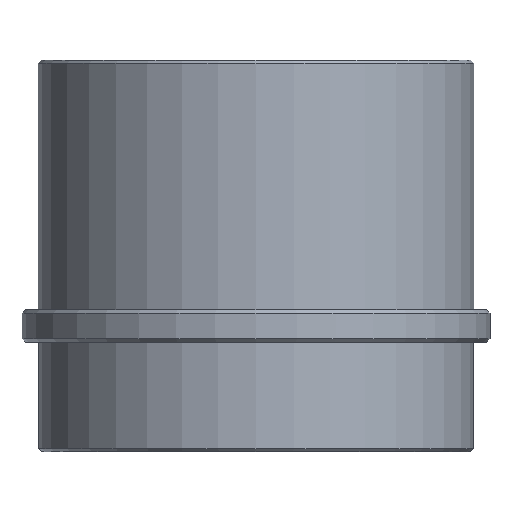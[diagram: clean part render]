
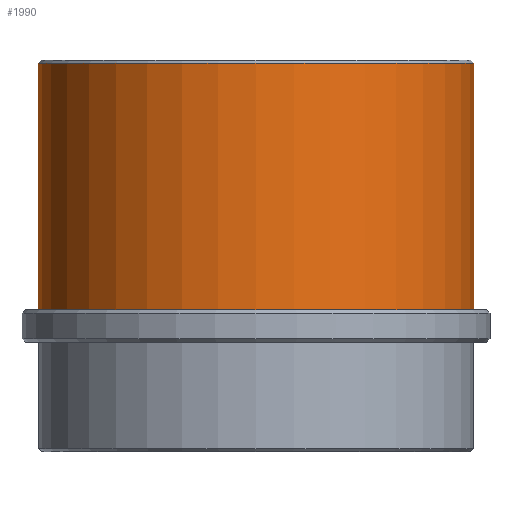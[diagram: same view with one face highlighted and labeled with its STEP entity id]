
A CAD part, front view. The second image highlights one B-rep face of the part: STEP entity #1990.
In plain terms, the highlighted cylindrical face has radius 31.756 mm (diameter 63.513 mm), a partial arc.
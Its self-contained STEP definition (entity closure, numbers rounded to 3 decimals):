
#993=CARTESIAN_POINT('',(0.,0.,40.648));
#994=DIRECTION('',(0.,0.,-1.));
#995=DIRECTION('',(1.,0.,0.));
#996=AXIS2_PLACEMENT_3D('',#993,#994,#995);
#998=DIRECTION('',(0.,0.,-1.));
#999=VECTOR('',#998,35.898);
#1000=CARTESIAN_POINT('',(31.756,0.,
40.648));
#1001=LINE('',#1000,#999);
#1002=DIRECTION('',(0.,0.,-1.));
#1003=VECTOR('',#1002,35.898);
#1004=CARTESIAN_POINT('',(-31.756,0.,
40.648));
#1005=LINE('',#1004,#1003);
#1015=CARTESIAN_POINT('',(0.,0.,4.75));
#1016=DIRECTION('',(0.,0.,-1.));
#1017=DIRECTION('',(1.,0.,0.));
#1018=AXIS2_PLACEMENT_3D('',#1015,#1016,#1017);
#1225=CARTESIAN_POINT('',(31.756,0.,4.75));
#1226=CARTESIAN_POINT('',(-31.756,0.,4.75));
#1227=VERTEX_POINT('',#1225);
#1228=VERTEX_POINT('',#1226);
#1259=CARTESIAN_POINT('',(31.756,0.,40.648));
#1260=CARTESIAN_POINT('',(-31.756,0.,40.648));
#1261=VERTEX_POINT('',#1259);
#1262=VERTEX_POINT('',#1260);
#1976=CARTESIAN_POINT('',(0.,0.,-18.86));
#1977=DIRECTION('',(0.,0.,1.));
#1978=DIRECTION('',(-1.,0.,0.));
#1979=AXIS2_PLACEMENT_3D('',#1976,#1977,#1978);
#1980=CYLINDRICAL_SURFACE('',#1979,31.756);
#1981=ORIENTED_EDGE('',*,*,#1966,.F.);
#1983=ORIENTED_EDGE('',*,*,#1982,.T.);
#1985=ORIENTED_EDGE('',*,*,#1984,.T.);
#1987=ORIENTED_EDGE('',*,*,#1986,.F.);
#1988=EDGE_LOOP('',(#1981,#1983,#1985,#1987));
#1989=FACE_OUTER_BOUND('',#1988,.F.);
#1990=ADVANCED_FACE('',(#1989),#1980,.T.);
#997=CIRCLE('',#996,31.756);
#1019=CIRCLE('',#1018,31.756);
#1966=EDGE_CURVE('',#1261,#1262,#997,.T.);
#1982=EDGE_CURVE('',#1261,#1227,#1001,.T.);
#1984=EDGE_CURVE('',#1227,#1228,#1019,.T.);
#1986=EDGE_CURVE('',#1262,#1228,#1005,.T.);
